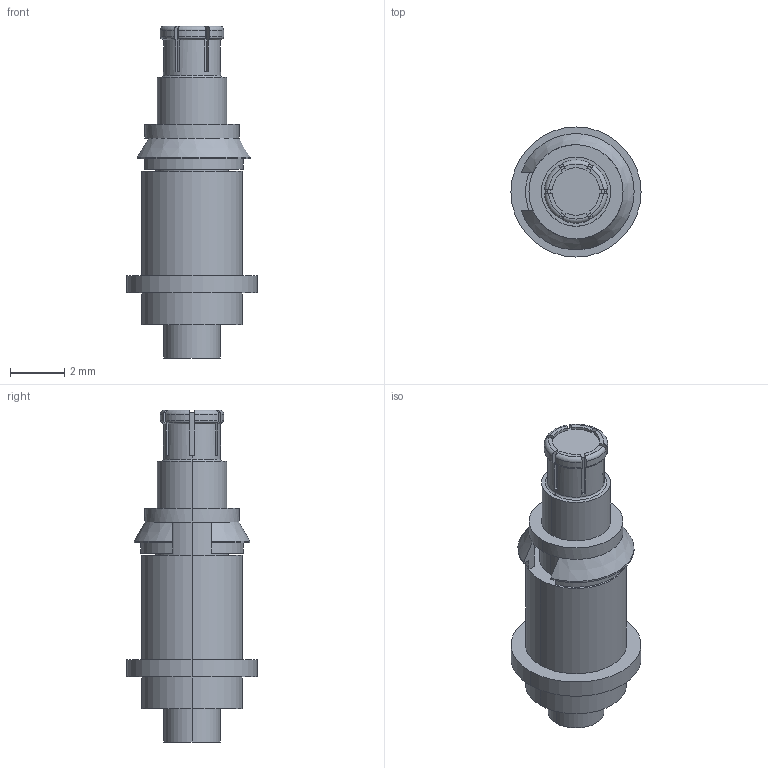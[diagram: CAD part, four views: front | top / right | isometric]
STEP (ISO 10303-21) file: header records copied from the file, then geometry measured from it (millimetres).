
FILE_DESCRIPTION (( 'STEP AP214' ), '1' );
FILE_NAME ('3221-40076.STEP', '2017-06-15T12:48:09', ( '' ), ( '' ), 'SwSTEP 2.0', 'SolidWorks 2016', '' );
FILE_SCHEMA (( 'AUTOMOTIVE_DESIGN' ));
Length unit declared in the file: inch
Products named in the file (1): 3221-40076
Bounding box: 4.78 x 4.78 x 12.19 mm (x, y, z)
Volume: 96.6 mm3; surface area: 201.8 mm2
Topology: 1 solids, 1 shells, 107 faces, 282 edges, 186 vertices
Faces by surface type: cylinder 45, plane 39, torus 14, cone 9
Entity records: 4898 total; most frequent: CARTESIAN_POINT 886, DIRECTION 582, ORIENTED_EDGE 564, EDGE_CURVE 282, AXIS2_PLACEMENT_3D 230, VERTEX_POINT 186, CIRCLE 122, LINE 122
